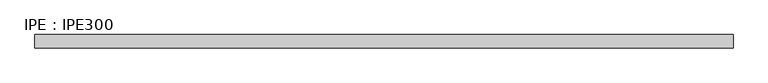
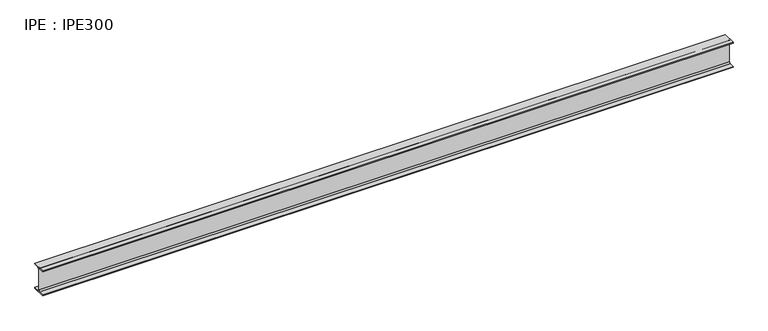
"""IFC4 building model written with IfcOpenShell, lengths in millimetres: beam geometry, IPE : IPE300."""

from ifc_helpers import new_model, si_unit, point, frame, frame_2d, origin, place, context, project, spatial, polyline, circle_curve, trimmed, segment, composite_curve, outline, extrude, source, transform, mapped, element, save


def ipe_ipe300_697b3008(model_context):
    return source(origin(), model_context, "Body", "SweptSolid", [
        extrude(outline(composite_curve([segment(polyline([(75.0, -139.3), (75.0, -150.0), (-75.0, -150.0), (-75.0, -139.3), (-18.55, -139.3)]), True, "CONTINUOUS"), segment(trimmed(circle_curve(frame_2d((-18.55, -124.3)), 15.0), [point((-18.55, -139.3))], [point((-3.55, -124.3))], True, "CARTESIAN"), True, "CONTINUOUS"), segment(polyline([(-3.55, -124.3), (-3.55, 124.3)]), True, "CONTINUOUS"), segment(trimmed(circle_curve(frame_2d((-18.55, 124.3)), 15.0), [point((-3.55, 124.3))], [point((-18.55, 139.3))], True, "CARTESIAN"), True, "CONTINUOUS"), segment(polyline([(-18.55, 139.3), (-75.0, 139.3), (-75.0, 150.0), (75.0, 150.0), (75.0, 139.3), (18.55, 139.3)]), True, "CONTINUOUS"), segment(trimmed(circle_curve(frame_2d((18.55, 124.3)), 15.0), [point((18.55, 139.3))], [point((3.55, 124.3))], True, "CARTESIAN"), True, "CONTINUOUS"), segment(polyline([(3.55, 124.3), (3.55, -124.3)]), True, "CONTINUOUS"), segment(trimmed(circle_curve(frame_2d((18.55, -124.3)), 15.0), [point((3.55, -124.3))], [point((18.55, -139.3))], True, "CARTESIAN"), True, "CONTINUOUS"), segment(polyline([(18.55, -139.3), (75.0, -139.3)]), True, "CONTINUOUS")], self_intersect=False)), frame((-3852.3, 0.0, 0.0), z_axis=(1.0, 0.0, 0.0), x_axis=(0.0, 1.0, 0.0)), (0.0, 0.0, 1.0), 7847.3),
    ])


if __name__ == "__main__":
    model = new_model("IFC4")
    model_context = context("Model", 3, world=origin())
    ifc_project = project(units=[si_unit("LENGTHUNIT", "METRE", prefix="MILLI")], contexts=[model_context])
    site = spatial("IfcSite", under=ifc_project)
    building = spatial("IfcBuilding", under=site)
    placement = place(None, origin())
    ipe_ipe300_shape = ipe_ipe300_697b3008(model_context)
    element("IfcBeam", 1, ObjectType="IPE : IPE300", at=placement, inside=building, context=model_context, shape_type="MappedRepresentation", body=[
        mapped(ipe_ipe300_shape, transform((0.0, 0.0, 0.0), x_axis=(1.0, 0.0, 0.0), y_axis=(0.0, 1.0, 0.0), z_axis=(0.0, 0.0, 1.0))),
    ])
    save(model, "model.ifc")
